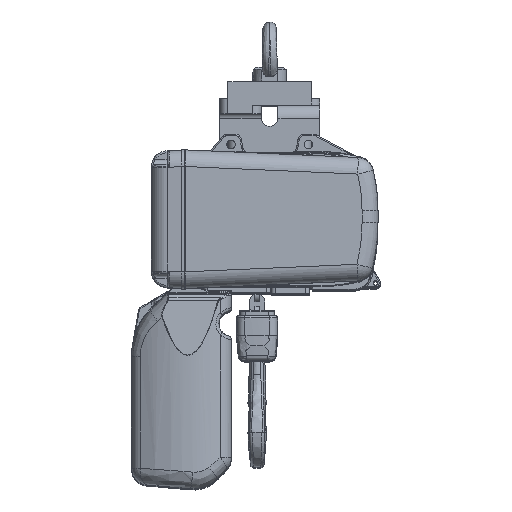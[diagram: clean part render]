
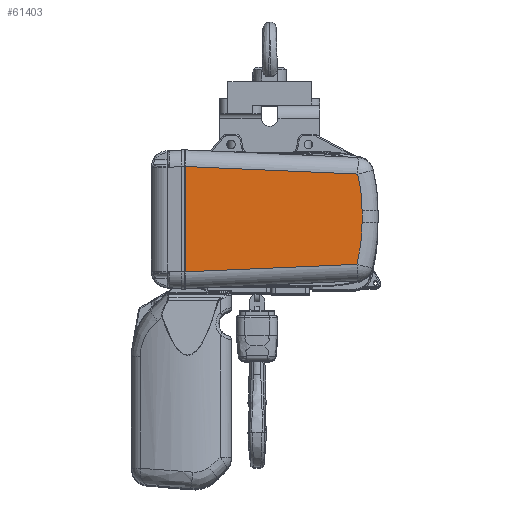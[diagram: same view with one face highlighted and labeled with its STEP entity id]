
A CAD part, top view. The second image highlights one B-rep face of the part: STEP entity #61403.
In plain terms, the highlighted planar face has unit normal (0.044, 0, 0.999).
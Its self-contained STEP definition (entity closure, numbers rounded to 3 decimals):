
#2467=B_SPLINE_CURVE_WITH_KNOTS('',3,(#137021,#137022,#137023,#137024,#137025,
#137026,#137027,#137028,#137029,#137030,#137031,#137032,#137033,#137034,
#137035,#137036,#137037,#137038,#137039,#137040,#137041,#137042,#137043,
#137044,#137045,#137046,#137047,#137048,#137049,#137050,#137051,#137052,
#137053,#137054,#137055,#137056,#137057,#137058),.UNSPECIFIED.,.F.,.F.,
(4,2,2,2,2,1,1,1,1,1,1,1,1,1,1,1,1,1,1,1,1,2,2,2,2,2,4),(0.,0.029,
0.059,0.088,0.118,0.147,
0.177,0.206,0.235,0.265,
0.294,0.323,0.353,0.382,
0.412,0.441,0.471,0.5,
0.556,0.611,0.667,0.722,
0.778,0.833,0.889,0.944,
1.),.UNSPECIFIED.);
#2468=B_SPLINE_CURVE_WITH_KNOTS('',3,(#137061,#137062,#137063,#137064,#137065,
#137066,#137067,#137068,#137069,#137070,#137071,#137072,#137073,#137074,
#137075,#137076,#137077,#137078,#137079,#137080,#137081,#137082,#137083,
#137084,#137085,#137086,#137087,#137088,#137089,#137090,#137091,#137092,
#137093,#137094,#137095,#137096),.UNSPECIFIED.,.F.,.F.,(4,2,2,2,2,1,1,1,
1,1,1,1,1,1,1,1,1,1,1,2,2,2,2,2,4),(0.,0.031,0.063,
0.094,0.125,0.156,0.188,
0.219,0.25,0.281,0.312,
0.344,0.375,0.406,0.437,
0.469,0.5,0.563,0.625,
0.688,0.75,0.812,0.875,
0.937,1.),.UNSPECIFIED.);
#5886=LINE('',#137013,#9024);
#5887=LINE('',#137019,#9025);
#5888=LINE('',#137060,#9026);
#5889=LINE('',#137097,#9027);
#9024=VECTOR('',#77770,207.076);
#9025=VECTOR('',#77777,206.128);
#9026=VECTOR('',#77778,13.805);
#9027=VECTOR('',#77779,126.325);
#11378=PLANE('',#66677);
#13986=FACE_OUTER_BOUND('',#17966,.T.);
#17966=EDGE_LOOP('',(#47138,#47139,#47140,#47141,#47142,#47143));
#26422=VERTEX_POINT('',#137011);
#26423=VERTEX_POINT('',#137012);
#26424=VERTEX_POINT('',#137017);
#26425=VERTEX_POINT('',#137018);
#26426=VERTEX_POINT('',#137020);
#26427=VERTEX_POINT('',#137059);
#33754=EDGE_CURVE('',#26422,#26423,#5886,.T.);
#33757=EDGE_CURVE('',#26424,#26425,#5887,.T.);
#33758=EDGE_CURVE('',#26424,#26426,#2467,.T.);
#33759=EDGE_CURVE('',#26426,#26427,#5888,.T.);
#33760=EDGE_CURVE('',#26427,#26423,#2468,.T.);
#33761=EDGE_CURVE('',#26425,#26422,#5889,.T.);
#47138=ORIENTED_EDGE('',*,*,#33757,.F.);
#47139=ORIENTED_EDGE('',*,*,#33758,.T.);
#47140=ORIENTED_EDGE('',*,*,#33759,.T.);
#47141=ORIENTED_EDGE('',*,*,#33760,.T.);
#47142=ORIENTED_EDGE('',*,*,#33754,.F.);
#47143=ORIENTED_EDGE('',*,*,#33761,.F.);
#61403=ADVANCED_FACE('',(#13986),#11378,.T.);
#66677=AXIS2_PLACEMENT_3D('',#137016,#77775,#77776);
#77770=DIRECTION('',(0.998,-0.044,-0.044));
#77775=DIRECTION('center_axis',(0.044,0.,
0.999));
#77776=DIRECTION('ref_axis',(0.999,0.,-0.044));
#77777=DIRECTION('',(-0.998,-0.044,0.044));
#77778=DIRECTION('',(0.,1.,0.));
#77779=DIRECTION('',(0.,1.,0.));
#137011=CARTESIAN_POINT('',(-113.365,-66.757,635.585));
#137012=CARTESIAN_POINT('',(93.317,-75.781,626.561));
#137013=CARTESIAN_POINT('',(-114.865,-66.692,635.65));
#137016=CARTESIAN_POINT('Origin',(66.516,-211.902,627.731));
#137017=CARTESIAN_POINT('',(92.371,-184.1,626.602));
#137018=CARTESIAN_POINT('',(-113.365,-193.083,635.585));
#137019=CARTESIAN_POINT('',(92.371,-184.1,626.602));
#137020=CARTESIAN_POINT('',(98.487,-133.724,626.335));
#137021=CARTESIAN_POINT('Ctrl Pts',(92.371,-184.1,
626.602));
#137022=CARTESIAN_POINT('Ctrl Pts',(92.49,-183.615,
626.597));
#137023=CARTESIAN_POINT('Ctrl Pts',(92.608,-183.13,
626.592));
#137024=CARTESIAN_POINT('Ctrl Pts',(92.84,-182.159,
626.582));
#137025=CARTESIAN_POINT('Ctrl Pts',(92.954,-181.673,626.577));
#137026=CARTESIAN_POINT('Ctrl Pts',(93.179,-180.701,
626.567));
#137027=CARTESIAN_POINT('Ctrl Pts',(93.29,-180.215,
626.562));
#137028=CARTESIAN_POINT('Ctrl Pts',(93.508,-179.241,626.553));
#137029=CARTESIAN_POINT('Ctrl Pts',(93.615,-178.754,626.548));
#137030=CARTESIAN_POINT('Ctrl Pts',(93.826,-177.779,626.539));
#137031=CARTESIAN_POINT('Ctrl Pts',(94.034,-176.804,
626.53));
#137032=CARTESIAN_POINT('Ctrl Pts',(94.335,-175.339,
626.516));
#137033=CARTESIAN_POINT('Ctrl Pts',(94.625,-173.872,
626.504));
#137034=CARTESIAN_POINT('Ctrl Pts',(94.905,-172.403,
626.492));
#137035=CARTESIAN_POINT('Ctrl Pts',(95.175,-170.932,
626.48));
#137036=CARTESIAN_POINT('Ctrl Pts',(95.434,-169.46,
626.468));
#137037=CARTESIAN_POINT('Ctrl Pts',(95.683,-167.985,626.458));
#137038=CARTESIAN_POINT('Ctrl Pts',(95.921,-166.509,
626.447));
#137039=CARTESIAN_POINT('Ctrl Pts',(96.148,-165.03,
626.437));
#137040=CARTESIAN_POINT('Ctrl Pts',(96.366,-163.55,
626.428));
#137041=CARTESIAN_POINT('Ctrl Pts',(96.572,-162.067,
626.419));
#137042=CARTESIAN_POINT('Ctrl Pts',(96.768,-160.583,
626.41));
#137043=CARTESIAN_POINT('Ctrl Pts',(97.009,-158.657,
626.4));
#137044=CARTESIAN_POINT('Ctrl Pts',(97.281,-156.289,
626.388));
#137045=CARTESIAN_POINT('Ctrl Pts',(97.565,-153.476,
626.375));
#137046=CARTESIAN_POINT('Ctrl Pts',(97.811,-150.661,
626.365));
#137047=CARTESIAN_POINT('Ctrl Pts',(97.95,-148.783,626.359));
#137048=CARTESIAN_POINT('Ctrl Pts',(98.077,-146.904,
626.353));
#137049=CARTESIAN_POINT('Ctrl Pts',(98.134,-145.965,
626.351));
#137050=CARTESIAN_POINT('Ctrl Pts',(98.235,-144.084,626.346));
#137051=CARTESIAN_POINT('Ctrl Pts',(98.279,-143.144,
626.344));
#137052=CARTESIAN_POINT('Ctrl Pts',(98.355,-141.262,
626.341));
#137053=CARTESIAN_POINT('Ctrl Pts',(98.386,-140.321,
626.34));
#137054=CARTESIAN_POINT('Ctrl Pts',(98.437,-138.437,
626.337));
#137055=CARTESIAN_POINT('Ctrl Pts',(98.457,-137.495,
626.336));
#137056=CARTESIAN_POINT('Ctrl Pts',(98.481,-135.61,
626.335));
#137057=CARTESIAN_POINT('Ctrl Pts',(98.487,-134.667,
626.335));
#137058=CARTESIAN_POINT('Ctrl Pts',(98.487,-133.724,626.335));
#137059=CARTESIAN_POINT('',(98.487,-119.92,626.335));
#137060=CARTESIAN_POINT('',(98.487,-133.724,626.335));
#137061=CARTESIAN_POINT('Ctrl Pts',(98.487,-119.92,
626.335));
#137062=CARTESIAN_POINT('Ctrl Pts',(98.487,-119.456,
626.335));
#137063=CARTESIAN_POINT('Ctrl Pts',(98.486,-118.991,
626.335));
#137064=CARTESIAN_POINT('Ctrl Pts',(98.479,-118.062,
626.335));
#137065=CARTESIAN_POINT('Ctrl Pts',(98.474,-117.598,
626.336));
#137066=CARTESIAN_POINT('Ctrl Pts',(98.46,-116.67,
626.336));
#137067=CARTESIAN_POINT('Ctrl Pts',(98.452,-116.206,
626.337));
#137068=CARTESIAN_POINT('Ctrl Pts',(98.432,-115.278,
626.338));
#137069=CARTESIAN_POINT('Ctrl Pts',(98.42,-114.814,
626.338));
#137070=CARTESIAN_POINT('Ctrl Pts',(98.393,-113.887,
626.339));
#137071=CARTESIAN_POINT('Ctrl Pts',(98.362,-112.96,626.341));
#137072=CARTESIAN_POINT('Ctrl Pts',(98.307,-111.569,626.343));
#137073=CARTESIAN_POINT('Ctrl Pts',(98.241,-110.18,626.346));
#137074=CARTESIAN_POINT('Ctrl Pts',(98.165,-108.791,
626.349));
#137075=CARTESIAN_POINT('Ctrl Pts',(98.079,-107.402,
626.353));
#137076=CARTESIAN_POINT('Ctrl Pts',(97.982,-106.014,
626.357));
#137077=CARTESIAN_POINT('Ctrl Pts',(97.876,-104.627,
626.362));
#137078=CARTESIAN_POINT('Ctrl Pts',(97.759,-103.24,
626.367));
#137079=CARTESIAN_POINT('Ctrl Pts',(97.633,-101.854,626.372));
#137080=CARTESIAN_POINT('Ctrl Pts',(97.496,-100.469,
626.378));
#137081=CARTESIAN_POINT('Ctrl Pts',(97.349,-99.084,
626.385));
#137082=CARTESIAN_POINT('Ctrl Pts',(97.14,-97.238,
626.394));
#137083=CARTESIAN_POINT('Ctrl Pts',(96.853,-94.935,
626.406));
#137084=CARTESIAN_POINT('Ctrl Pts',(96.468,-92.177,
626.423));
#137085=CARTESIAN_POINT('Ctrl Pts',(96.186,-90.343,626.436));
#137086=CARTESIAN_POINT('Ctrl Pts',(95.889,-88.512,
626.449));
#137087=CARTESIAN_POINT('Ctrl Pts',(95.735,-87.598,
626.455));
#137088=CARTESIAN_POINT('Ctrl Pts',(95.412,-85.771,
626.469));
#137089=CARTESIAN_POINT('Ctrl Pts',(95.244,-84.859,
626.477));
#137090=CARTESIAN_POINT('Ctrl Pts',(94.894,-83.037,
626.492));
#137091=CARTESIAN_POINT('Ctrl Pts',(94.713,-82.127,
626.5));
#137092=CARTESIAN_POINT('Ctrl Pts',(94.337,-80.31,
626.516));
#137093=CARTESIAN_POINT('Ctrl Pts',(94.143,-79.402,
626.525));
#137094=CARTESIAN_POINT('Ctrl Pts',(93.739,-77.59,
626.542));
#137095=CARTESIAN_POINT('Ctrl Pts',(93.531,-76.685,
626.552));
#137096=CARTESIAN_POINT('Ctrl Pts',(93.317,-75.781,
626.561));
#137097=CARTESIAN_POINT('',(-113.365,-170.91,635.585));
